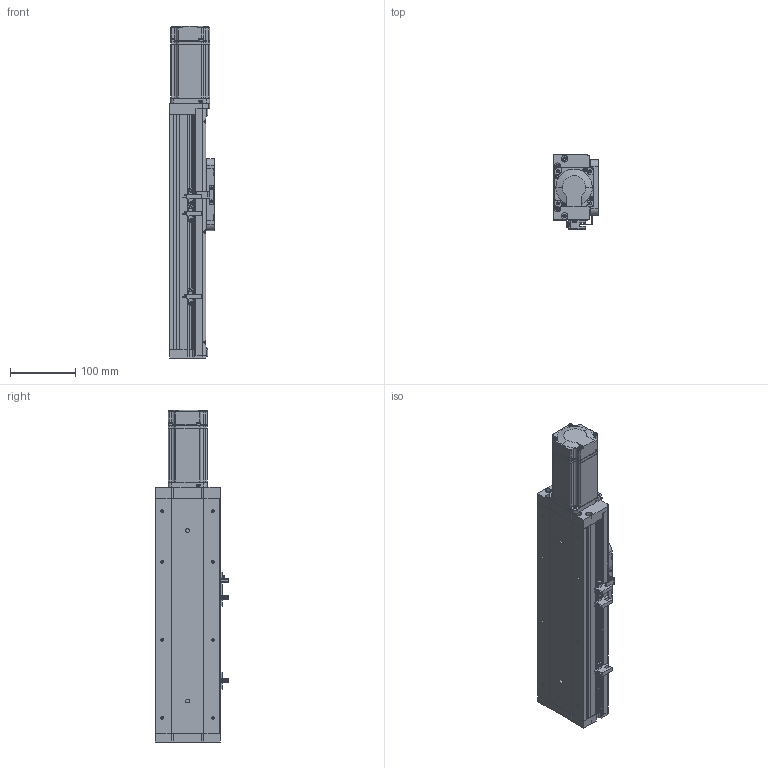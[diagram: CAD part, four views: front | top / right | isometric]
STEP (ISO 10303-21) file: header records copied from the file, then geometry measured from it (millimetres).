
FILE_DESCRIPTION (( 'STEP AP214' ), '1' );
FILE_NAME ('KSD100S-S150-MN-CR.STEP', '2019-09-02T08:42:33', ( '微软用户' ), ( '微软中国' ), 'SwSTEP 2.0', 'SolidWorks 2014', '' );
FILE_SCHEMA (( 'AUTOMOTIVE_DESIGN' ));
Length unit declared in the file: millimetre
Products named in the file (12): 100宽盖板压板不带电机座; 100宽盖板150行程不带电机座; 100宽侧板150行程不带电机座; 100宽底板全封闭150行程不带电机座; KSD100S-S150-MN-CR; MHMD042G1CA_2_03; U倰嫖萇EEㄜSX672; 感应片100宽全封闭; 100宽马达安装板全封闭不带电机座; 100宽端板全封闭; 100宽滚珠螺姆安装板1防护罩; 100宽滚珠螺姆安装板1
Assembly tree (15 placements, depth 2):
  KSD100S-S150-MN-CR
    100宽底板全封闭150行程不带电机座
    100宽侧板150行程不带电机座  x2
    100宽盖板150行程不带电机座
    100宽盖板压板不带电机座  x2
    100宽滚珠螺姆安装板1
    100宽滚珠螺姆安装板1防护罩
    100宽端板全封闭
    100宽马达安装板全封闭不带电机座
    感应片100宽全封闭
    U倰嫖萇EEㄜSX672  x3
    MHMD042G1CA_2_03
Bounding box: 70 x 113.7 x 510.5 mm (x, y, z)
Volume: 876202.1 mm3; surface area: 407137.8 mm2
Topology: 14 solids, 15 shells, 1396 faces, 3904 edges, 2522 vertices
Faces by surface type: plane 652, cylinder 565, cone 161, bspline 18
Entity records: 47308 total; most frequent: CARTESIAN_POINT 7283, DIRECTION 6469, ORIENTED_EDGE 6060, EDGE_CURVE 3102, AXIS2_PLACEMENT_3D 2264, VERTEX_POINT 2060, LINE 1941, VECTOR 1941
